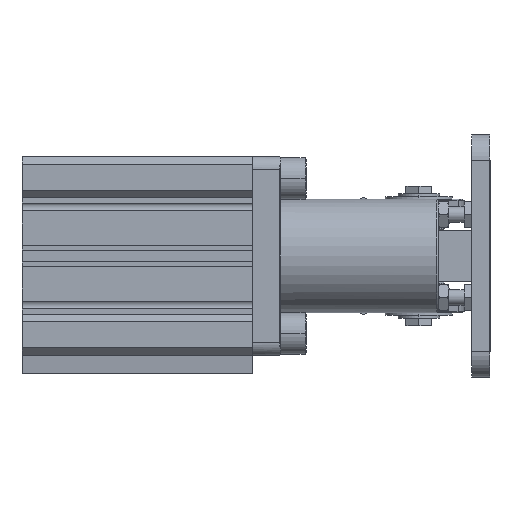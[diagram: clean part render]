
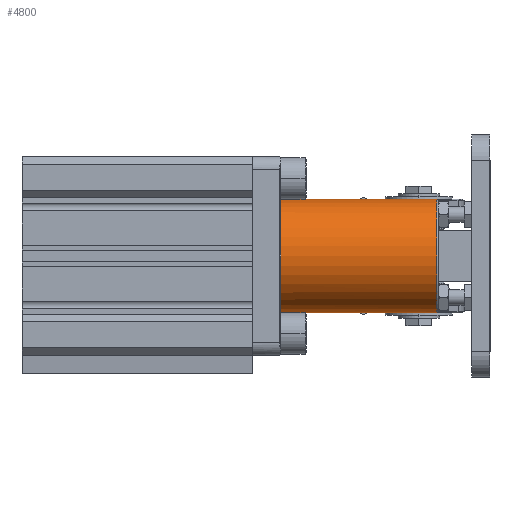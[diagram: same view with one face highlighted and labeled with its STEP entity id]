
A CAD part, left-side view. The second image highlights one B-rep face of the part: STEP entity #4800.
In plain terms, the highlighted cylindrical face has radius 22 mm (diameter 44 mm), a partial arc.
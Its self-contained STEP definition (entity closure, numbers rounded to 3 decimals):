
#556=CYLINDRICAL_SURFACE('',#19474,22.);
#907=LINE('',#28552,#2392);
#923=LINE('',#28672,#2408);
#2392=VECTOR('',#21736,1.);
#2408=VECTOR('',#21788,1.);
#4800=ADVANCED_FACE('',(#5952),#556,.T.);
#5952=FACE_OUTER_BOUND('',#7048,.T.);
#7048=EDGE_LOOP('',(#9346,#9347,#9348,#9349,#9350,#9351));
#8194=B_SPLINE_CURVE_WITH_KNOTS('',3,(#29366,#29367,#29368,#29369,#29370,
#29371,#29372,#29373,#29374,#29375),.UNSPECIFIED.,.F.,.F.,(4,3,3,4),(0.,
0.312,0.655,1.),.UNSPECIFIED.);
#8197=B_SPLINE_CURVE_WITH_KNOTS('',3,(#29456,#29457,#29458,#29459,#29460,
#29461,#29462,#29463,#29464,#29465),.UNSPECIFIED.,.F.,.F.,(4,3,3,4),(0.,
0.312,0.655,1.),.UNSPECIFIED.);
#9346=ORIENTED_EDGE('',*,*,#15922,.F.);
#9347=ORIENTED_EDGE('',*,*,#15920,.F.);
#9348=ORIENTED_EDGE('',*,*,#15710,.F.);
#9349=ORIENTED_EDGE('',*,*,#15670,.T.);
#9350=ORIENTED_EDGE('',*,*,#15680,.T.);
#9351=ORIENTED_EDGE('',*,*,#15945,.F.);
#13883=VERTEX_POINT('',#28531);
#13884=VERTEX_POINT('',#28532);
#13893=VERTEX_POINT('',#28551);
#13918=VERTEX_POINT('',#28673);
#14039=VERTEX_POINT('',#29376);
#14040=VERTEX_POINT('',#29406);
#15670=EDGE_CURVE('',#13883,#13884,#18210,.T.);
#15680=EDGE_CURVE('',#13884,#13893,#907,.T.);
#15710=EDGE_CURVE('',#13883,#13918,#923,.T.);
#15920=EDGE_CURVE('',#13918,#14039,#8194,.T.);
#15922=EDGE_CURVE('',#14039,#14040,#18300,.T.);
#15945=EDGE_CURVE('',#14040,#13893,#8197,.T.);
#18210=CIRCLE('',#19265,22.);
#18300=CIRCLE('',#19448,22.);
#19265=AXIS2_PLACEMENT_3D('',#28530,#21718,#21719);
#19448=AXIS2_PLACEMENT_3D('',#29405,#22219,#22220);
#19474=AXIS2_PLACEMENT_3D('',#29490,#22279,#22280);
#21718=DIRECTION('',(0.,-1.,0.));
#21719=DIRECTION('',(0.,0.,1.));
#21736=DIRECTION('',(0.,-1.,0.));
#21788=DIRECTION('',(0.,-1.,0.));
#22219=DIRECTION('',(0.,-1.,0.));
#22220=DIRECTION('',(-0.037,0.,0.999));
#22279=DIRECTION('',(0.,-1.,0.));
#22280=DIRECTION('',(0.,0.,-1.));
#28530=CARTESIAN_POINT('',(238.5,-11.,-188.5));
#28531=CARTESIAN_POINT('',(238.5,-11.,-166.5));
#28532=CARTESIAN_POINT('',(238.5,-11.,-210.5));
#28551=CARTESIAN_POINT('',(238.5,-71.594,-210.5));
#28552=CARTESIAN_POINT('',(238.5,-11.,-210.5));
#28672=CARTESIAN_POINT('',(238.5,-11.,-166.5));
#28673=CARTESIAN_POINT('',(238.5,-71.594,-166.5));
#29366=CARTESIAN_POINT('',(238.5,-71.594,-166.5));
#29367=CARTESIAN_POINT('',(238.416,-71.574,-166.5));
#29368=CARTESIAN_POINT('',(238.331,-71.558,-166.5));
#29369=CARTESIAN_POINT('',(238.245,-71.544,-166.501));
#29370=CARTESIAN_POINT('',(238.152,-71.53,-166.503));
#29371=CARTESIAN_POINT('',(238.057,-71.519,-166.504));
#29372=CARTESIAN_POINT('',(237.963,-71.511,-166.507));
#29373=CARTESIAN_POINT('',(237.868,-71.504,-166.509));
#29374=CARTESIAN_POINT('',(237.772,-71.5,-166.512));
#29375=CARTESIAN_POINT('',(237.677,-71.5,-166.515));
#29376=CARTESIAN_POINT('',(237.677,-71.5,-166.515));
#29405=CARTESIAN_POINT('',(238.5,-71.5,-188.5));
#29406=CARTESIAN_POINT('',(237.677,-71.5,-210.485));
#29456=CARTESIAN_POINT('',(237.677,-71.5,-210.485));
#29457=CARTESIAN_POINT('',(237.763,-71.5,-210.488));
#29458=CARTESIAN_POINT('',(237.85,-71.503,-210.491));
#29459=CARTESIAN_POINT('',(237.936,-71.509,-210.493));
#29460=CARTESIAN_POINT('',(238.031,-71.516,-210.495));
#29461=CARTESIAN_POINT('',(238.125,-71.526,-210.497));
#29462=CARTESIAN_POINT('',(238.219,-71.54,-210.498));
#29463=CARTESIAN_POINT('',(238.313,-71.554,-210.499));
#29464=CARTESIAN_POINT('',(238.407,-71.572,-210.5));
#29465=CARTESIAN_POINT('',(238.5,-71.594,-210.5));
#29490=CARTESIAN_POINT('',(238.5,-11.,-188.5));
